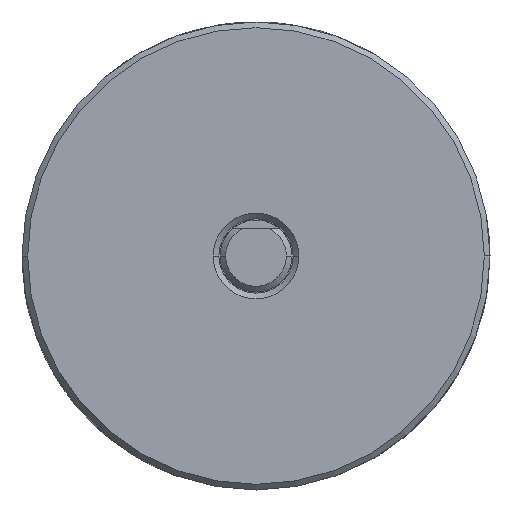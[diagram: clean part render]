
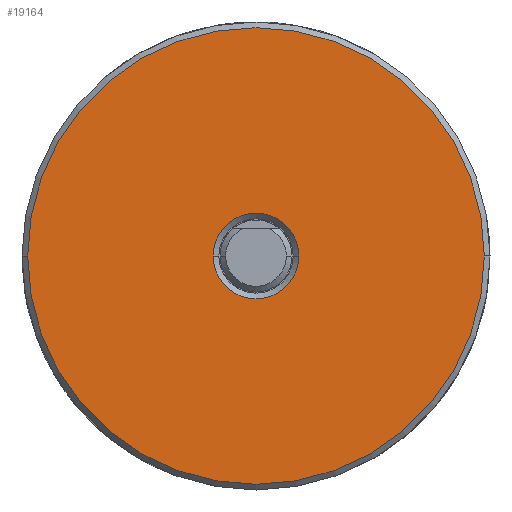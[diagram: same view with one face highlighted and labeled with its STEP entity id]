
A CAD part, left-side view. The second image highlights one B-rep face of the part: STEP entity #19164.
In plain terms, the highlighted planar face has unit normal (-1, 0, 0).
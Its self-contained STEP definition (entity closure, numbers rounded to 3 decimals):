
#2373 = CARTESIAN_POINT ( 'NONE',  ( 19.05, 20.138, 0. ) ) ;
#2374 = CARTESIAN_POINT ( 'NONE',  ( 19.05, -20.138, 0. ) ) ;
#2375 = DIRECTION ( 'NONE',  ( 0., -1., 0. ) ) ;
#2376 = DIRECTION ( 'NONE',  ( -1., 0., 0. ) ) ;
#2377 = CARTESIAN_POINT ( 'NONE',  ( 19.05, 0., 0. ) ) ;
#2378 = AXIS2_PLACEMENT_3D ( 'NONE', #2377, #2376, #2375 ) ;
#2383 = CIRCLE ( 'NONE', #2378, 20.138 ) ;
#2526 = CARTESIAN_POINT ( 'NONE',  ( 19.05, -3.775, 0. ) ) ;
#2527 = DIRECTION ( 'NONE',  ( 0., -1., 0. ) ) ;
#2528 = DIRECTION ( 'NONE',  ( 1., 0., 0. ) ) ;
#2529 = CARTESIAN_POINT ( 'NONE',  ( 19.05, 0., 0. ) ) ;
#2530 = AXIS2_PLACEMENT_3D ( 'NONE', #2529, #2528, #2527 ) ;
#2535 = CIRCLE ( 'NONE', #2530, 3.775 ) ;
#2672 = CARTESIAN_POINT ( 'NONE',  ( 19.05, 3.775, 0. ) ) ;
#19164 = ADVANCED_FACE ( 'NONE', ( #24134, #24136 ), #24133, .T. ) ;
#19165 = EDGE_LOOP ( 'NONE', ( #19166, #19167 ) ) ;
#19166 = ORIENTED_EDGE ( 'NONE', *, *, #20001, .T. ) ;
#19167 = ORIENTED_EDGE ( 'NONE', *, *, #19168, .T. ) ;
#19168 = EDGE_CURVE ( 'NONE', #20080, #20002, #24122, .T. ) ;
#19169 = EDGE_LOOP ( 'NONE', ( #19170, #19172 ) ) ;
#19170 = ORIENTED_EDGE ( 'NONE', *, *, #19171, .T. ) ;
#19171 = EDGE_CURVE ( 'NONE', #19946, #19945, #24123, .T. ) ;
#19172 = ORIENTED_EDGE ( 'NONE', *, *, #19944, .T. ) ;
#19944 = EDGE_CURVE ( 'NONE', #19945, #19946, #2383, .T. ) ;
#19945 = VERTEX_POINT ( 'NONE', #2374 ) ;
#19946 = VERTEX_POINT ( 'NONE', #2373 ) ;
#20001 = EDGE_CURVE ( 'NONE', #20002, #20080, #2535, .T. ) ;
#20002 = VERTEX_POINT ( 'NONE', #2526 ) ;
#20080 = VERTEX_POINT ( 'NONE', #2672 ) ;
#24119 = DIRECTION ( 'NONE',  ( 0., -1., 0. ) ) ;
#24120 = DIRECTION ( 'NONE',  ( 1., 0., 0. ) ) ;
#24121 = AXIS2_PLACEMENT_3D ( 'NONE', #24128, #24120, #24119 ) ;
#24122 = CIRCLE ( 'NONE', #24121, 3.775 ) ;
#24123 = CIRCLE ( 'NONE', #24169, 20.138 ) ;
#24124 = DIRECTION ( 'NONE',  ( 0., -1., 0. ) ) ;
#24125 = DIRECTION ( 'NONE',  ( -1., 0., 0. ) ) ;
#24126 = CARTESIAN_POINT ( 'NONE',  ( 19.05, 3.175, 0. ) ) ;
#24127 = AXIS2_PLACEMENT_3D ( 'NONE', #24126, #24125, #24124 ) ;
#24128 = CARTESIAN_POINT ( 'NONE',  ( 19.05, 0., 0. ) ) ;
#24133 = PLANE ( 'NONE',  #24127 ) ;
#24134 = FACE_BOUND ( 'NONE', #19165, .T. ) ;
#24136 = FACE_OUTER_BOUND ( 'NONE', #19169, .T. ) ;
#24166 = DIRECTION ( 'NONE',  ( 0., -1., 0. ) ) ;
#24167 = DIRECTION ( 'NONE',  ( -1., 0., 0. ) ) ;
#24168 = CARTESIAN_POINT ( 'NONE',  ( 19.05, 0., 0. ) ) ;
#24169 = AXIS2_PLACEMENT_3D ( 'NONE', #24168, #24167, #24166 ) ;
